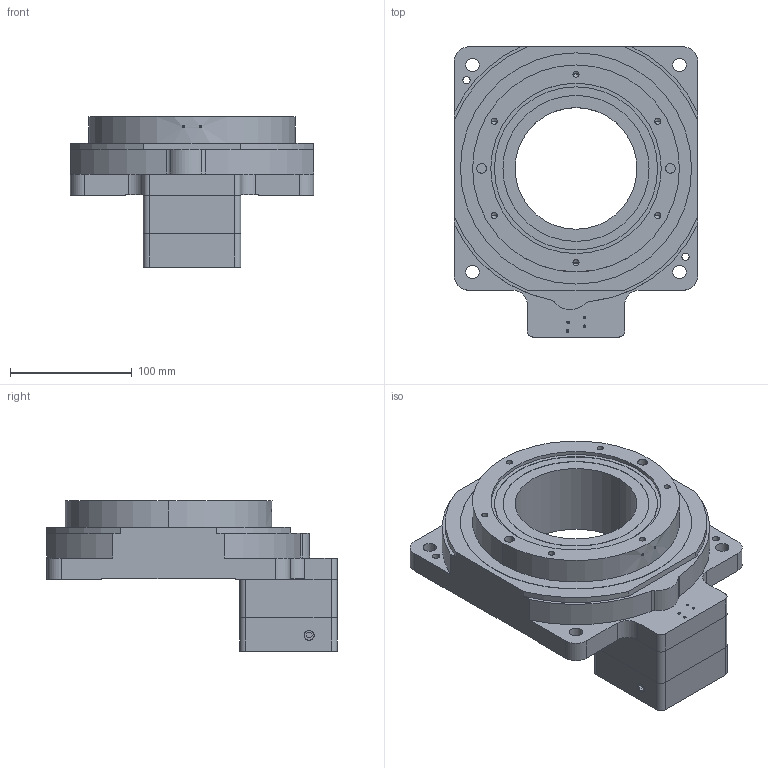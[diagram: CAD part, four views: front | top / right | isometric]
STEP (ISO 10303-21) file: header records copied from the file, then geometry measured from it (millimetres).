
FILE_DESCRIPTION (( 'STEP AP203' ), '1' );
FILE_NAME ('RPA200-18耀倰(19-35 70-3 4-5.5-90).STEP', '2018-05-16T06:34:04', ( 'Sky123.Org' ), ( 'Sky123.Org' ), 'SwSTEP 2.0', 'SolidWorks 2016', '' );
FILE_SCHEMA (( 'CONFIG_CONTROL_DESIGN' ));
Length unit declared in the file: millimetre
Products named in the file (1): RPA200-18耀倰(19-35 70-3 4-5.5-90)
Bounding box: 200 x 238.5 x 123.5 mm (x, y, z)
Volume: 1937737.4 mm3; surface area: 195133.7 mm2
Topology: 3 solids, 3 shells, 222 faces, 574 edges, 356 vertices
Faces by surface type: cylinder 117, plane 73, cone 32
Entity records: 6753 total; most frequent: DIRECTION 1218, CARTESIAN_POINT 1185, ORIENTED_EDGE 1084, EDGE_CURVE 542, AXIS2_PLACEMENT_3D 457, VERTEX_POINT 356, LINE 304, VECTOR 304
